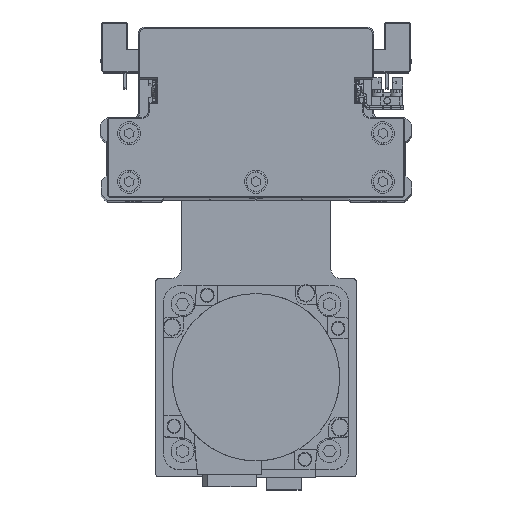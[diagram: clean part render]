
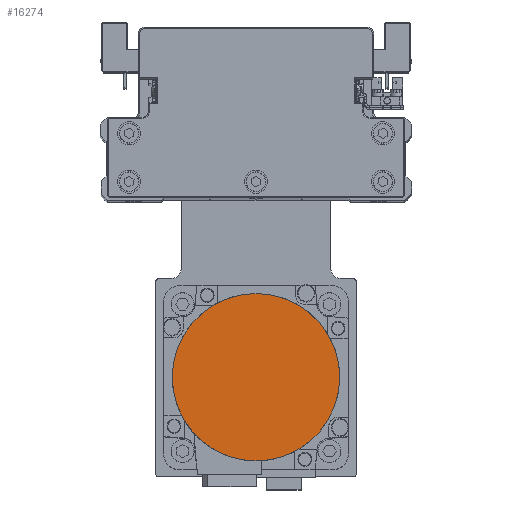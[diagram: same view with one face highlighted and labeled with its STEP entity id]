
A CAD part, top view. The second image highlights one B-rep face of the part: STEP entity #16274.
In plain terms, the highlighted planar face has unit normal (0, 0, 1) as drawn and (0, 0, -1) by its records, which use the part's own axes.
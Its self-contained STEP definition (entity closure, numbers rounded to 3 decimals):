
#1828 = EDGE_CURVE ( 'NONE', #38784, #3688, #28674, .T. ) ;
#1978 = AXIS2_PLACEMENT_3D ( 'NONE', #26777, #39011, #11501 ) ;
#3688 = VERTEX_POINT ( 'NONE', #17407 ) ;
#5696 = ORIENTED_EDGE ( 'NONE', *, *, #18991, .F. ) ;
#7013 = CARTESIAN_POINT ( 'NONE',  ( 0., 0., -122.2 ) ) ;
#7021 = AXIS2_PLACEMENT_3D ( 'NONE', #7013, #19239, #31514 ) ;
#7113 = ORIENTED_EDGE ( 'NONE', *, *, #1828, .F. ) ;
#9805 = DIRECTION ( 'NONE',  ( 0., 1., 0. ) ) ;
#11356 = AXIS2_PLACEMENT_3D ( 'NONE', #25084, #37321, #9805 ) ;
#11501 = DIRECTION ( 'NONE',  ( 0., -1., 0. ) ) ;
#11509 = EDGE_LOOP ( 'NONE', ( #7113, #5696 ) ) ;
#16274 = ADVANCED_FACE ( 'NONE', ( #22291 ), #34543, .F. ) ;
#17407 = CARTESIAN_POINT ( 'NONE',  ( 0., -36.3, -122.2 ) ) ;
#18991 = EDGE_CURVE ( 'NONE', #3688, #38784, #19271, .T. ) ;
#19239 = DIRECTION ( 'NONE',  ( 0., 0., 1. ) ) ;
#19271 = CIRCLE ( 'NONE', #1978, 36.3 ) ;
#22291 = FACE_OUTER_BOUND ( 'NONE', #11509, .T. ) ;
#25084 = CARTESIAN_POINT ( 'NONE',  ( 0., 0., -122.2 ) ) ;
#26777 = CARTESIAN_POINT ( 'NONE',  ( 0., 0., -122.2 ) ) ;
#28674 = CIRCLE ( 'NONE', #11356, 36.3 ) ;
#31514 = DIRECTION ( 'NONE',  ( 1., 0., 0. ) ) ;
#34543 = PLANE ( 'NONE',  #7021 ) ;
#36504 = CARTESIAN_POINT ( 'NONE',  ( 0., 36.3, -122.2 ) ) ;
#37321 = DIRECTION ( 'NONE',  ( 0., 0., 1. ) ) ;
#38784 = VERTEX_POINT ( 'NONE', #36504 ) ;
#39011 = DIRECTION ( 'NONE',  ( 0., 0., 1. ) ) ;
